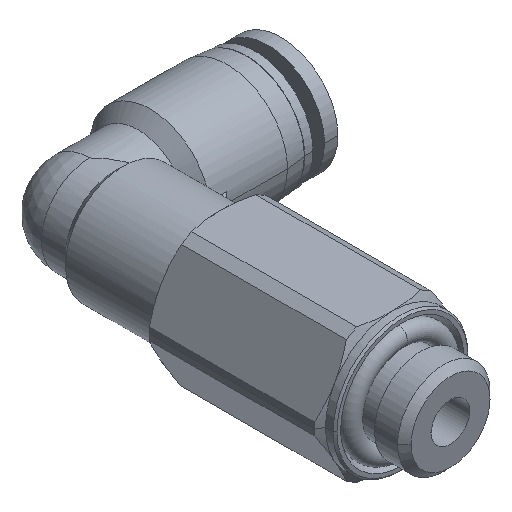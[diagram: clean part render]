
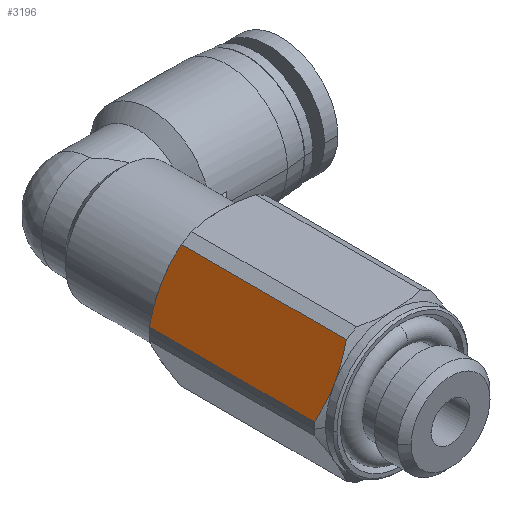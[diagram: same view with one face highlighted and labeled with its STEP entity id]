
A CAD part, isometric view. The second image highlights one B-rep face of the part: STEP entity #3196.
In plain terms, the highlighted planar face has unit normal (-0.866, 0, 0.5).
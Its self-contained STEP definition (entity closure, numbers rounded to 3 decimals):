
#66 = CARTESIAN_POINT ( 'NONE',  ( -7.013, -0.146, 1.853 ) ) ;
#77 = CARTESIAN_POINT ( 'NONE',  ( -5.591, -0.036, 4.316 ) ) ;
#97 = CARTESIAN_POINT ( 'NONE',  ( -6.062, 0., 3.5 ) ) ;
#113 = CARTESIAN_POINT ( 'NONE',  ( -4.399, -17.567, 6.38 ) ) ;
#212 = CARTESIAN_POINT ( 'NONE',  ( -6.599, -0.036, 2.571 ) ) ;
#336 = CARTESIAN_POINT ( 'NONE',  ( -7.725, -17.567, 0.62 ) ) ;
#395 = CARTESIAN_POINT ( 'NONE',  ( -7.58, -0.361, 0.872 ) ) ;
#399 = CARTESIAN_POINT ( 'NONE',  ( -7.725, -6.144, 0.62 ) ) ;
#406 = CARTESIAN_POINT ( 'NONE',  ( -7.725, -17.567, 0.62 ) ) ;
#408 = VERTEX_POINT ( 'NONE', #1707 ) ;
#426 = CARTESIAN_POINT ( 'NONE',  ( -7.146, -17.822, 1.623 ) ) ;
#436 = CARTESIAN_POINT ( 'NONE',  ( -6.943, -0.126, 1.975 ) ) ;
#603 = CARTESIAN_POINT ( 'NONE',  ( -5.526, -17.964, 4.429 ) ) ;
#616 = CARTESIAN_POINT ( 'NONE',  ( -7.725, -0.433, 0.62 ) ) ;
#622 = B_SPLINE_CURVE_WITH_KNOTS ( 'NONE', 3,
 ( #2097, #395, #3442, #1731, #3068, #3789, #66, #436, #2225, #212, #3520, #905 ),
 .UNSPECIFIED., .F., .F.,
 ( 4, 2, 2, 2, 2, 4 ),
 ( 0., 0.25, 0.375, 0.438, 0.5, 1. ),
 .UNSPECIFIED. ) ;
#757 = CARTESIAN_POINT ( 'NONE',  ( -7.725, -17.567, 0.62 ) ) ;
#797 = ORIENTED_EDGE ( 'NONE', *, *, #1316, .T. ) ;
#817 = CARTESIAN_POINT ( 'NONE',  ( -4.971, -0.18, 5.39 ) ) ;
#844 = VERTEX_POINT ( 'NONE', #1622 ) ;
#905 = CARTESIAN_POINT ( 'NONE',  ( -6.062, 0., 3.5 ) ) ;
#998 = B_SPLINE_CURVE_WITH_KNOTS ( 'NONE', 3,
 ( #2776, #2481, #2107, #3739 ),
 .UNSPECIFIED., .F., .F.,
 ( 4, 4 ),
 ( 0., 1. ),
 .UNSPECIFIED. ) ;
#1047 = FACE_OUTER_BOUND ( 'NONE', #2935, .T. ) ;
#1074 = CARTESIAN_POINT ( 'NONE',  ( -5.32, -0.09, 4.785 ) ) ;
#1149 = CARTESIAN_POINT ( 'NONE',  ( -6.599, -17.964, 2.571 ) ) ;
#1199 = B_SPLINE_CURVE_WITH_KNOTS ( 'NONE', 3,
 ( #97, #4136, #1765, #77, #1442, #3102, #2756, #1074, #1825, #817, #1421, #2420 ),
 .UNSPECIFIED., .F., .F.,
 ( 4, 2, 2, 2, 2, 4 ),
 ( 0., 0.25, 0.375, 0.437, 0.5, 1. ),
 .UNSPECIFIED. ) ;
#1219 = CARTESIAN_POINT ( 'NONE',  ( -6.329, -18., 3.038 ) ) ;
#1311 = DIRECTION ( 'NONE',  ( -0.866, 0., 0.5 ) ) ;
#1316 = EDGE_CURVE ( 'NONE', #3188, #3283, #2469, .T. ) ;
#1421 = CARTESIAN_POINT ( 'NONE',  ( -4.69, -0.289, 5.876 ) ) ;
#1442 = CARTESIAN_POINT ( 'NONE',  ( -5.523, -0.047, 4.433 ) ) ;
#1482 = VERTEX_POINT ( 'NONE', #616 ) ;
#1610 = VERTEX_POINT ( 'NONE', #406 ) ;
#1622 = CARTESIAN_POINT ( 'NONE',  ( -4.399, -0.433, 6.38 ) ) ;
#1707 = CARTESIAN_POINT ( 'NONE',  ( -6.062, 0., 3.5 ) ) ;
#1731 = CARTESIAN_POINT ( 'NONE',  ( -7.224, -0.216, 1.487 ) ) ;
#1765 = CARTESIAN_POINT ( 'NONE',  ( -5.792, -0.009, 3.967 ) ) ;
#1809 = ORIENTED_EDGE ( 'NONE', *, *, #3676, .T. ) ;
#1825 = CARTESIAN_POINT ( 'NONE',  ( -5.287, -0.098, 4.842 ) ) ;
#2087 = CARTESIAN_POINT ( 'NONE',  ( -7.43, -17.713, 1.13 ) ) ;
#2090 = ORIENTED_EDGE ( 'NONE', *, *, #2945, .F. ) ;
#2097 = CARTESIAN_POINT ( 'NONE',  ( -7.725, -0.433, 0.62 ) ) ;
#2107 = CARTESIAN_POINT ( 'NONE',  ( -4.399, -6.144, 6.38 ) ) ;
#2128 = CARTESIAN_POINT ( 'NONE',  ( -6.062, -18., 3.5 ) ) ;
#2225 = CARTESIAN_POINT ( 'NONE',  ( -6.906, -0.116, 2.038 ) ) ;
#2275 = B_SPLINE_CURVE_WITH_KNOTS ( 'NONE', 3,
 ( #757, #2087, #426, #1149, #1219, #2128 ),
 .UNSPECIFIED., .F., .F.,
 ( 4, 2, 4 ),
 ( 0., 0.5, 1. ),
 .UNSPECIFIED. ) ;
#2375 = PLANE ( 'NONE',  #3002 ) ;
#2420 = CARTESIAN_POINT ( 'NONE',  ( -4.399, -0.433, 6.38 ) ) ;
#2469 = B_SPLINE_CURVE_WITH_KNOTS ( 'NONE', 3,
 ( #2933, #3606, #603, #3790, #2846, #3811 ),
 .UNSPECIFIED., .F., .F.,
 ( 4, 2, 4 ),
 ( 0., 0.5, 1. ),
 .UNSPECIFIED. ) ;
#2481 = CARTESIAN_POINT ( 'NONE',  ( -4.399, -11.856, 6.38 ) ) ;
#2493 = EDGE_CURVE ( 'NONE', #1482, #408, #622, .T. ) ;
#2614 = CARTESIAN_POINT ( 'NONE',  ( -8.083, 0., 0. ) ) ;
#2748 = CARTESIAN_POINT ( 'NONE',  ( -7.725, -11.856, 0.62 ) ) ;
#2756 = CARTESIAN_POINT ( 'NONE',  ( -5.388, -0.074, 4.667 ) ) ;
#2776 = CARTESIAN_POINT ( 'NONE',  ( -4.399, -17.567, 6.38 ) ) ;
#2846 = CARTESIAN_POINT ( 'NONE',  ( -4.694, -17.713, 5.869 ) ) ;
#2933 = CARTESIAN_POINT ( 'NONE',  ( -6.062, -18., 3.5 ) ) ;
#2935 = EDGE_LOOP ( 'NONE', ( #2090, #3608, #1809, #3741, #797, #3486 ) ) ;
#2945 = EDGE_CURVE ( 'NONE', #408, #844, #1199, .T. ) ;
#2962 = EDGE_CURVE ( 'NONE', #3283, #844, #998, .T. ) ;
#3002 = AXIS2_PLACEMENT_3D ( 'NONE', #2614, #1311, #3714 ) ;
#3068 = CARTESIAN_POINT ( 'NONE',  ( -7.153, -0.191, 1.61 ) ) ;
#3102 = CARTESIAN_POINT ( 'NONE',  ( -5.422, -0.067, 4.608 ) ) ;
#3188 = VERTEX_POINT ( 'NONE', #4046 ) ;
#3196 = ADVANCED_FACE ( 'NONE', ( #1047 ), #2375, .T. ) ;
#3283 = VERTEX_POINT ( 'NONE', #113 ) ;
#3381 = CARTESIAN_POINT ( 'NONE',  ( -7.725, -0.433, 0.62 ) ) ;
#3442 = CARTESIAN_POINT ( 'NONE',  ( -7.437, -0.298, 1.119 ) ) ;
#3486 = ORIENTED_EDGE ( 'NONE', *, *, #2962, .T. ) ;
#3520 = CARTESIAN_POINT ( 'NONE',  ( -6.333, 0., 3.03 ) ) ;
#3606 = CARTESIAN_POINT ( 'NONE',  ( -5.796, -18., 3.961 ) ) ;
#3608 = ORIENTED_EDGE ( 'NONE', *, *, #2493, .F. ) ;
#3676 = EDGE_CURVE ( 'NONE', #1482, #1610, #3920, .T. ) ;
#3714 = DIRECTION ( 'NONE',  ( 0., 1., 0. ) ) ;
#3739 = CARTESIAN_POINT ( 'NONE',  ( -4.399, -0.433, 6.38 ) ) ;
#3741 = ORIENTED_EDGE ( 'NONE', *, *, #4140, .T. ) ;
#3789 = CARTESIAN_POINT ( 'NONE',  ( -7.048, -0.157, 1.793 ) ) ;
#3790 = CARTESIAN_POINT ( 'NONE',  ( -4.979, -17.822, 5.377 ) ) ;
#3811 = CARTESIAN_POINT ( 'NONE',  ( -4.399, -17.567, 6.38 ) ) ;
#3920 = B_SPLINE_CURVE_WITH_KNOTS ( 'NONE', 3,
 ( #3381, #399, #2748, #336 ),
 .UNSPECIFIED., .F., .F.,
 ( 4, 4 ),
 ( 0., 1. ),
 .UNSPECIFIED. ) ;
#4046 = CARTESIAN_POINT ( 'NONE',  ( -6.062, -18., 3.5 ) ) ;
#4136 = CARTESIAN_POINT ( 'NONE',  ( -5.927, 0., 3.735 ) ) ;
#4140 = EDGE_CURVE ( 'NONE', #1610, #3188, #2275, .T. ) ;
